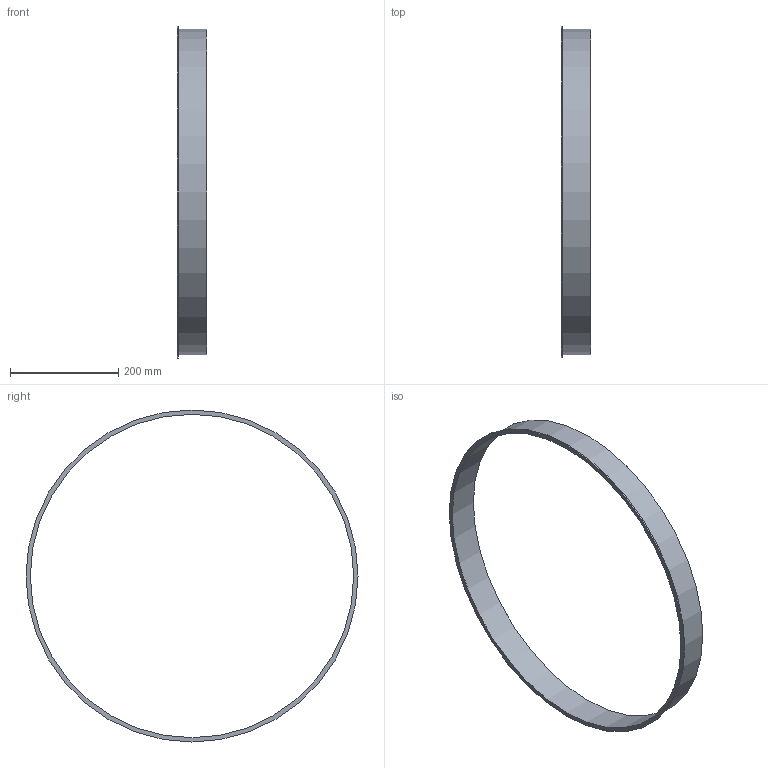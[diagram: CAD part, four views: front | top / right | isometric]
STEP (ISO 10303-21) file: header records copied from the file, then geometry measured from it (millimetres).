
FILE_DESCRIPTION((''),'2;1');
FILE_NAME('U:\Wolfgang\Marcel-3D\fertig\Kapitel 1\6021012.stp','2010-05-31T12:40:35',('TK2'),(''),'Autodesk Inventor 2010','Autodesk Inventor 2010','');
FILE_SCHEMA(('AUTOMOTIVE_DESIGN { 1 0 10303 214 1 1 1 1 }'));
Length unit declared in the file: millimetre
Products named in the file (1): 6021012
Bounding box: 55 x 614 x 614 mm (x, y, z)
Volume: 230266.2 mm3; surface area: 237881.4 mm2
Topology: 1 solids, 1 shells, 6 faces, 9 edges, 6 vertices
Faces by surface type: cylinder 3, plane 3
Full cylindrical faces by diameter (mm): 598 x1, 602 x1, 614 x1
Entity records: 154 total; most frequent: DIRECTION 26, CARTESIAN_POINT 19, AXIS2_PLACEMENT_3D 13, ORIENTED_EDGE 12, EDGE_LOOP 12, VERTEX_POINT 6, CIRCLE 6, EDGE_CURVE 6
